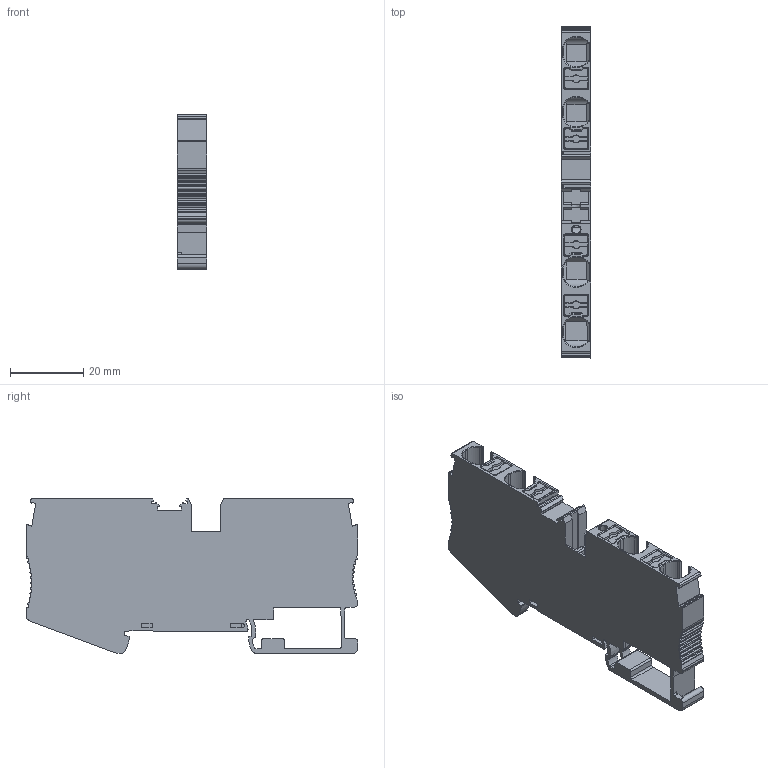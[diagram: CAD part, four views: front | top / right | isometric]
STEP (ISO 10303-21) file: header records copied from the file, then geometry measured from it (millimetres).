
FILE_DESCRIPTION((''),'2;1');
FILE_NAME('_X2_585180F6_X0__2_1_1','2024-04-03T11:25:08',('Administrator'),(''),'CREO PARAMETRIC BY PTC INC, 2018050','CREO PARAMETRIC BY PTC INC, 2018050','');
FILE_SCHEMA(('CONFIG_CONTROL_DESIGN'));
Length unit declared in the file: millimetre
Products named in the file (1): _X2_585180F6_X0__2_1_1
Bounding box: 8.15 x 90.53 x 42.2 mm (x, y, z)
Volume: 21028.2 mm3; surface area: 13202.2 mm2
Topology: 1 solids, 5 shells, 1000 faces, 2803 edges, 1819 vertices
Faces by surface type: plane 519, cylinder 386, cone 42, torus 26, bspline 24, extrusion 3
Entity records: 33390 total; most frequent: CARTESIAN_POINT 7585, ORIENTED_EDGE 5606, DIRECTION 5180, EDGE_CURVE 2803, VECTOR 1830, LINE 1827, VERTEX_POINT 1819, AXIS2_PLACEMENT_3D 1675
